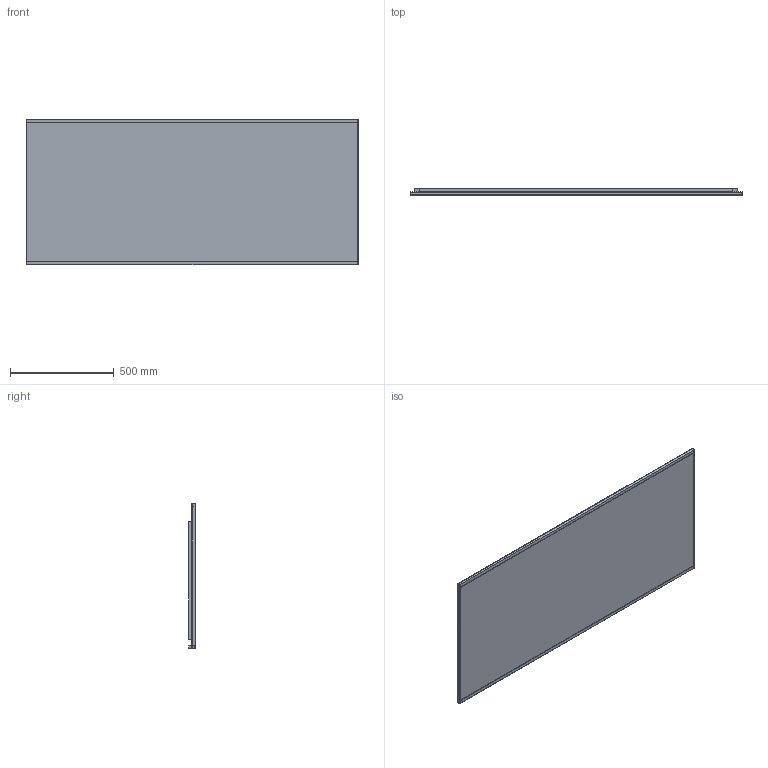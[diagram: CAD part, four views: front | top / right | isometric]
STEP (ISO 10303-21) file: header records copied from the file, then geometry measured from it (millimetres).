
FILE_DESCRIPTION(/* description */ (''),/* implementation_level */ '2;1');
FILE_NAME(/* name */ 'C:\Planerdaten\Export PLA\502.787.00.1\stp\502787.stp',/* time_stamp */ '2022-12-02T15:06:41+01:00',/* author */ ('JANAN'),/* organization */ (''),/* preprocessor_version */ 'ST-DEVELOPER v18.1',/* originating_system */ 'Autodesk Inventor 2021',/* authorisation */ '');
FILE_SCHEMA (('AUTOMOTIVE_DESIGN { 1 0 10303 214 3 1 1 }'));
Length unit declared in the file: millimetre
Products named in the file (1): tmp70B3.tmp
Bounding box: 1600 x 32 x 700 mm (x, y, z)
Volume: 30576205.5 mm3; surface area: 4874481 mm2
Topology: 4 solids, 4 shells, 63 faces, 154 edges, 104 vertices
Faces by surface type: plane 59, cylinder 4
Full cylindrical faces by diameter (mm): 8 x4
Entity records: 1959 total; most frequent: CARTESIAN_POINT 322, ORIENTED_EDGE 308, DIRECTION 298, EDGE_CURVE 154, LINE 138, VECTOR 138, VERTEX_POINT 104, AXIS2_PLACEMENT_3D 80
